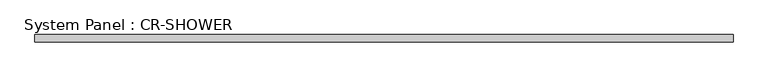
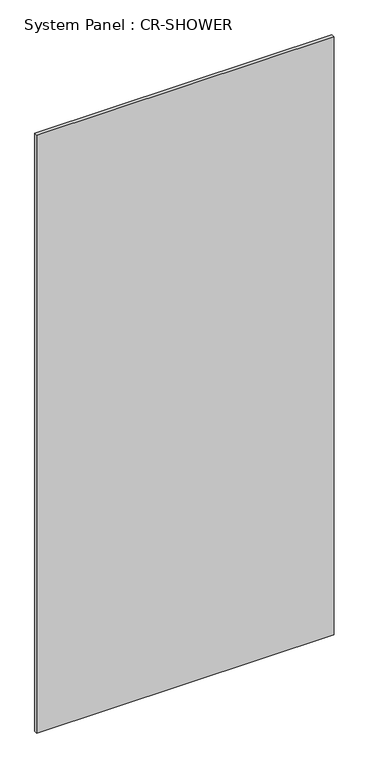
"""IFC4 building model written with IfcOpenShell, lengths in millimetres: plate geometry, System Panel : CR-SHOWER."""

from ifc_helpers import new_model, si_unit, origin, origin_with_axes, place, context, project, spatial, polyline, outline, extrude, source, transform, mapped, element, save


def system_panel_cr_shower_d0c7b907(model_context):
    return source(origin(), model_context, "Body", "SweptSolid", [
        extrude(outline(polyline([(600.0, -0.05), (-600.0, -0.05), (-600.0, 12.45), (600.0, 12.45), (600.0, -0.05)])), origin_with_axes(), (0.0, 0.0, 1.0), 2550.0),
    ])


if __name__ == "__main__":
    model = new_model("IFC4")
    model_context = context("Model", 3, world=origin())
    ifc_project = project(units=[si_unit("LENGTHUNIT", "METRE", prefix="MILLI")], contexts=[model_context])
    site = spatial("IfcSite", under=ifc_project)
    building = spatial("IfcBuilding", under=site)
    placement = place(None, origin())
    system_panel_cr_shower_shape = system_panel_cr_shower_d0c7b907(model_context)
    element("IfcPlate", 1, ObjectType="System Panel : CR-SHOWER", at=placement, inside=building, context=model_context, shape_type="MappedRepresentation", body=[
        mapped(system_panel_cr_shower_shape, transform((0.0, 0.0, 0.0), x_axis=(1.0, 0.0, 0.0), y_axis=(0.0, 1.0, 0.0), z_axis=(0.0, 0.0, 1.0))),
    ])
    save(model, "model.ifc")
